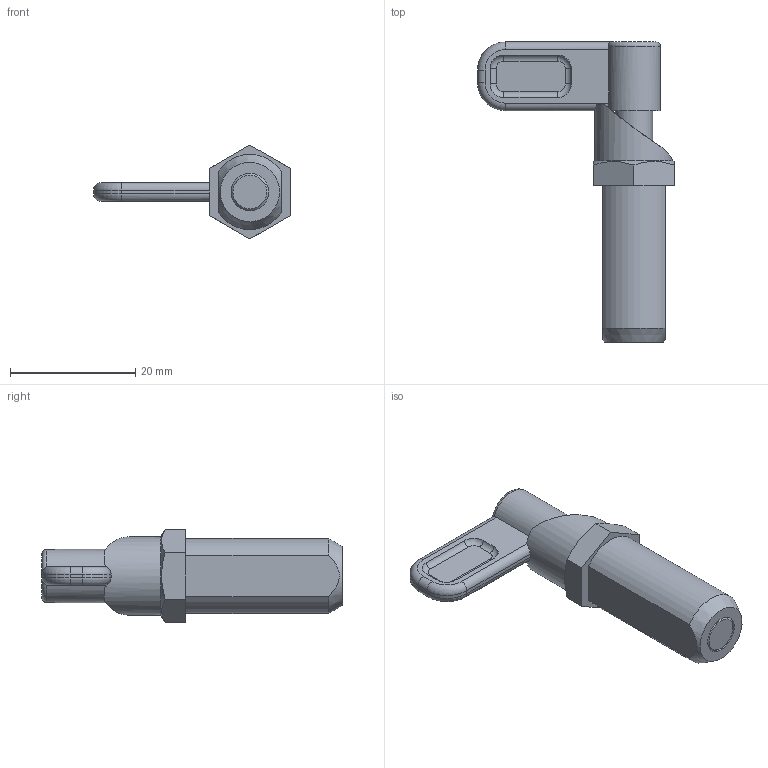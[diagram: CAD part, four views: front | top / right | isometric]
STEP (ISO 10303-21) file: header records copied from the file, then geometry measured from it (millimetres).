
FILE_DESCRIPTION( ( 'STEP AP203' ), '1' );
FILE_NAME( 'C:/Temp/Ganter_Step_05_03_2020/data/3_1/gn_612.8/gn612_8_a/Indexing plunger GN 612.8-6-M12x1,5-A (activated).stp', '2020-03-12T09:12:17', ( 'License CC BY-ND 4.0' ), ( 'CADENAS' ), ' ', 'PARTsolutions', ' ' );
FILE_SCHEMA( ( 'CONFIG_CONTROL_DESIGN' ) );
Length unit declared in the file: millimetre
Products named in the file (3): Indexing plunger GN 612.8-6-M12x1,5-A (activated); _Indexing plunger GN 612.8-6-M12x1,5-A (2)_2; _Rastriegel GN 612.8-6-M12x1,5-A (2)_1
Assembly tree (2 placements, depth 2):
  Indexing plunger GN 612.8-6-M12x1,5-A (activated)
    _Indexing plunger GN 612.8-6-M12x1,5-A (2)_2
    _Rastriegel GN 612.8-6-M12x1,5-A (2)_1
Bounding box: 31.5 x 48 x 15.01 mm (x, y, z)
Volume: 4732.5 mm3; surface area: 3896.4 mm2
Topology: 2 solids, 2 shells, 74 faces, 172 edges, 110 vertices
Faces by surface type: cylinder 33, plane 25, torus 13, cone 3
Full cylindrical faces by diameter (mm): 6 x4, 7 x2, 9 x1, 12.5 x1
Entity records: 2470 total; most frequent: CARTESIAN_POINT 710, DIRECTION 358, ORIENTED_EDGE 322, EDGE_CURVE 161, AXIS2_PLACEMENT_3D 150, VERTEX_POINT 108, EDGE_LOOP 93, FACE_OUTER_BOUND 80
